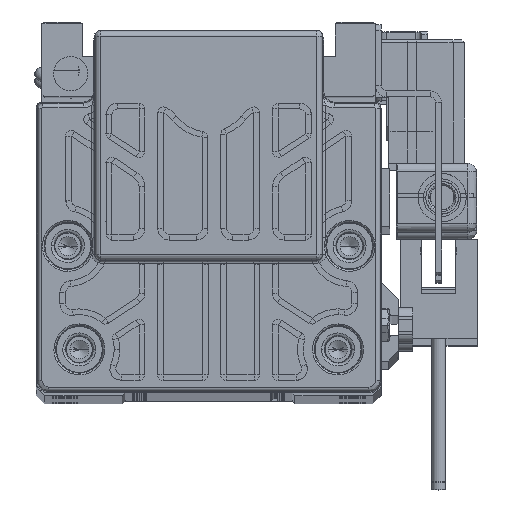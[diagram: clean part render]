
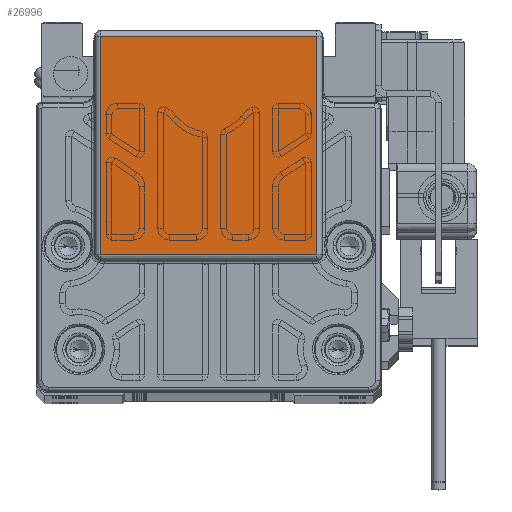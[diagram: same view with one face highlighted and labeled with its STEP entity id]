
A CAD part, top view. The second image highlights one B-rep face of the part: STEP entity #26996.
In plain terms, the highlighted planar face has unit normal (0, 0, 1) as drawn and (0, 0, -1) by its records, which use the part's own axes.
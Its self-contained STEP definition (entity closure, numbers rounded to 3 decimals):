
#1120 = CARTESIAN_POINT ( 'NONE',  ( 18.808, 62.447, -143. ) ) ;
#1888 = CARTESIAN_POINT ( 'NONE',  ( 19., 24.5, -143. ) ) ;
#2347 = VERTEX_POINT ( 'NONE', #1120 ) ;
#5094 = CARTESIAN_POINT ( 'NONE',  ( 18.808, 24.5, -143. ) ) ;
#6910 = ORIENTED_EDGE ( 'NONE', *, *, #37337, .F. ) ;
#8007 = PLANE ( 'NONE',  #27442 ) ;
#9263 = CARTESIAN_POINT ( 'NONE',  ( 18.808, 24.518, -143. ) ) ;
#11307 = CARTESIAN_POINT ( 'NONE',  ( -18.808, 62.447, -143. ) ) ;
#11366 = ORIENTED_EDGE ( 'NONE', *, *, #52130, .F. ) ;
#15643 = LINE ( 'NONE', #21787, #82903 ) ;
#16722 = VECTOR ( 'NONE', #31735, 1000. ) ;
#21536 = DIRECTION ( 'NONE',  ( 0., 1., 0. ) ) ;
#21787 = CARTESIAN_POINT ( 'NONE',  ( 19., 24.518, -143. ) ) ;
#26996 = ADVANCED_FACE ( 'NONE', ( #40814 ), #8007, .T. ) ;
#27442 = AXIS2_PLACEMENT_3D ( 'NONE', #1888, #34665, #21536 ) ;
#29156 = DIRECTION ( 'NONE',  ( 1., 0., 0. ) ) ;
#29870 = LINE ( 'NONE', #43895, #53525 ) ;
#30690 = DIRECTION ( 'NONE',  ( 0., -1., 0. ) ) ;
#31735 = DIRECTION ( 'NONE',  ( 0., 1., 0. ) ) ;
#32092 = VERTEX_POINT ( 'NONE', #9263 ) ;
#34665 = DIRECTION ( 'NONE',  ( 0., 0., -1. ) ) ;
#37337 = EDGE_CURVE ( 'NONE', #66505, #32092, #15643, .T. ) ;
#40814 = FACE_OUTER_BOUND ( 'NONE', #48506, .T. ) ;
#43895 = CARTESIAN_POINT ( 'NONE',  ( -18.808, 31., -143. ) ) ;
#48506 = EDGE_LOOP ( 'NONE', ( #61292, #6910, #11366, #85195 ) ) ;
#48516 = DIRECTION ( 'NONE',  ( 1., 0., 0. ) ) ;
#48881 = CARTESIAN_POINT ( 'NONE',  ( 19., 62.447, -143. ) ) ;
#49002 = EDGE_CURVE ( 'NONE', #78469, #2347, #68171, .T. ) ;
#52130 = EDGE_CURVE ( 'NONE', #78469, #66505, #29870, .T. ) ;
#53525 = VECTOR ( 'NONE', #30690, 1000. ) ;
#61292 = ORIENTED_EDGE ( 'NONE', *, *, #77963, .F. ) ;
#65068 = LINE ( 'NONE', #5094, #16722 ) ;
#66505 = VERTEX_POINT ( 'NONE', #74947 ) ;
#68171 = LINE ( 'NONE', #48881, #69894 ) ;
#69894 = VECTOR ( 'NONE', #29156, 1000. ) ;
#74947 = CARTESIAN_POINT ( 'NONE',  ( -18.808, 24.518, -143. ) ) ;
#77963 = EDGE_CURVE ( 'NONE', #32092, #2347, #65068, .T. ) ;
#78469 = VERTEX_POINT ( 'NONE', #11307 ) ;
#82903 = VECTOR ( 'NONE', #48516, 1000. ) ;
#85195 = ORIENTED_EDGE ( 'NONE', *, *, #49002, .T. ) ;
